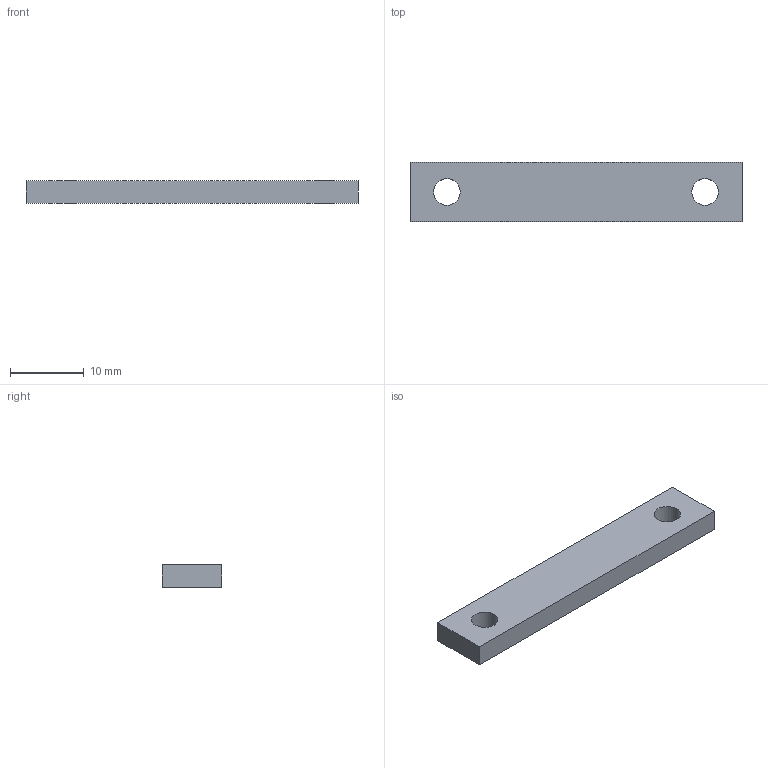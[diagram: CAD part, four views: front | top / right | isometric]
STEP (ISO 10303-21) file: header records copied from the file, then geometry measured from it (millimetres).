
FILE_DESCRIPTION(/* description */ ('STEP AP242 Edition 2','CAx-IF Rec.Pracs.---Representation and Presentation of Product Manufacturing Information (PMI)---4.0---2014-10-13','CAx-IF Rec.Pracs.---3D Tessellated Geometry---0.4---2014-09-14','2;1','CAx-IF Rec.Pracs.---User Defined Attributes---1.5---2016-08-15'),/* implementation_level */ '2;1');
FILE_NAME(/* name */ 'Arm Parts - SliderLink',/* time_stamp */ '2026-04-22T00:04:14Z',/* author */ (''),/* organization */ (''),/* preprocessor_version */ 'ST-DEVELOPER v20',/* originating_system */ 'ONSHAPE BY PTC INC, 1.213',/* authorisation */ ' ');
FILE_SCHEMA (('AP242_MANAGED_MODEL_BASED_3D_ENGINEERING_MIM_LF { 1 0 10303 442 3 1 4 }'));
Length unit declared in the file: metre
Products named in the file (1): SliderLink
Bounding box: 45 x 8 x 3 mm (x, y, z)
Volume: 1018.9 mm3; surface area: 1065.1 mm2
Topology: 1 solids, 1 shells, 8 faces, 18 edges, 12 vertices
Faces by surface type: plane 6, cylinder 2
Full cylindrical faces by diameter (mm): 3.6 x2
Entity records: 246 total; most frequent: DIRECTION 38, CARTESIAN_POINT 37, ORIENTED_EDGE 32, EDGE_CURVE 16, EDGE_LOOP 14, FACE_BOUND 14, AXIS2_PLACEMENT_3D 13, VERTEX_POINT 12
